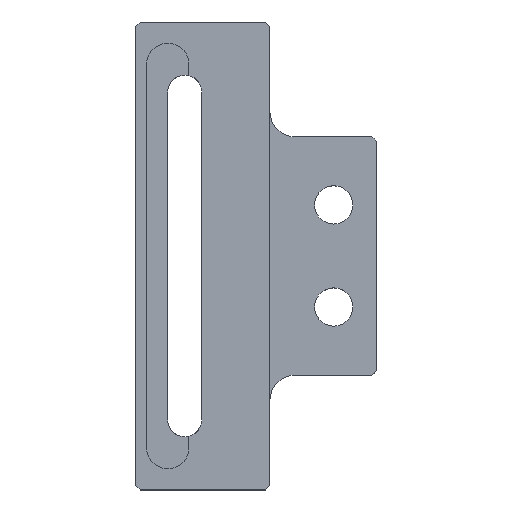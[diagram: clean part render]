
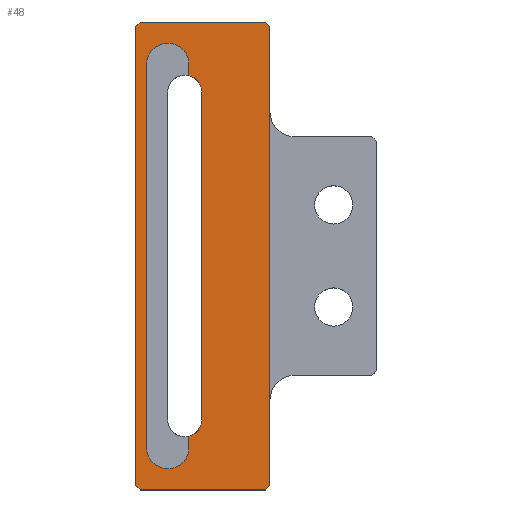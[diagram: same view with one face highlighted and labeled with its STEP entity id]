
A CAD part, top view. The second image highlights one B-rep face of the part: STEP entity #48.
In plain terms, the highlighted planar face has unit normal (0, 0, 1).
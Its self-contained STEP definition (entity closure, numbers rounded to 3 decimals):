
#48=ADVANCED_FACE('',(#363,#365),#367,.T.);
#363=FACE_BOUND('',#364,.T.);
#364=EDGE_LOOP('',(#624,#625,#626,#627,#628,#629,#630,#631,#632,#633));
#365=FACE_BOUND('',#366,.T.);
#366=EDGE_LOOP('',(#634,#635,#636,#637,#638,#639,#640,#641));
#367=PLANE('',#368);
#368=AXIS2_PLACEMENT_3D('',#369,#370,#371);
#369=CARTESIAN_POINT('',(0.,0.,7.5));
#370=DIRECTION('',(0.,0.,1.));
#371=DIRECTION('',(-1.,0.,0.));
#624=ORIENTED_EDGE('',*,*,#810,.F.);
#625=ORIENTED_EDGE('',*,*,#811,.F.);
#626=ORIENTED_EDGE('',*,*,#812,.F.);
#627=ORIENTED_EDGE('',*,*,#813,.F.);
#628=ORIENTED_EDGE('',*,*,#814,.T.);
#629=ORIENTED_EDGE('',*,*,#815,.F.);
#630=ORIENTED_EDGE('',*,*,#816,.F.);
#631=ORIENTED_EDGE('',*,*,#817,.F.);
#632=ORIENTED_EDGE('',*,*,#818,.F.);
#633=ORIENTED_EDGE('',*,*,#819,.F.);
#634=ORIENTED_EDGE('',*,*,#820,.F.);
#635=ORIENTED_EDGE('',*,*,#821,.T.);
#636=ORIENTED_EDGE('',*,*,#822,.T.);
#637=ORIENTED_EDGE('',*,*,#823,.T.);
#638=ORIENTED_EDGE('',*,*,#824,.T.);
#639=ORIENTED_EDGE('',*,*,#825,.T.);
#640=ORIENTED_EDGE('',*,*,#826,.F.);
#641=ORIENTED_EDGE('',*,*,#827,.F.);
#810=EDGE_CURVE('',#903,#904,#905,.F.);
#811=EDGE_CURVE('',#906,#903,#907,.T.);
#812=EDGE_CURVE('',#908,#906,#909,.F.);
#813=EDGE_CURVE('',#910,#908,#911,.T.);
#814=EDGE_CURVE('',#910,#912,#913,.T.);
#815=EDGE_CURVE('',#914,#912,#915,.T.);
#816=EDGE_CURVE('',#916,#914,#917,.F.);
#817=EDGE_CURVE('',#918,#916,#919,.T.);
#818=EDGE_CURVE('',#920,#918,#921,.F.);
#819=EDGE_CURVE('',#904,#920,#922,.T.);
#820=EDGE_CURVE('',#923,#924,#925,.F.);
#821=EDGE_CURVE('',#923,#926,#927,.F.);
#822=EDGE_CURVE('',#926,#928,#929,.F.);
#823=EDGE_CURVE('',#928,#930,#931,.F.);
#824=EDGE_CURVE('',#930,#932,#933,.F.);
#825=EDGE_CURVE('',#932,#934,#935,.F.);
#826=EDGE_CURVE('',#936,#934,#937,.F.);
#827=EDGE_CURVE('',#924,#936,#938,.F.);
#903=VERTEX_POINT('',#1058);
#904=VERTEX_POINT('',#1059);
#905=LINE('',#1060,#1061);
#906=VERTEX_POINT('',#1063);
#907=LINE('',#1064,#1065);
#908=VERTEX_POINT('',#1067);
#909=LINE('',#1068,#1069);
#910=VERTEX_POINT('',#1071);
#911=LINE('',#1072,#1073);
#912=VERTEX_POINT('',#1075);
#913=LINE('',#1076,#1077);
#914=VERTEX_POINT('',#1079);
#915=LINE('',#1080,#1081);
#916=VERTEX_POINT('',#1083);
#917=LINE('',#1084,#1085);
#918=VERTEX_POINT('',#1087);
#919=LINE('',#1088,#1089);
#920=VERTEX_POINT('',#1091);
#921=LINE('',#1092,#1093);
#922=LINE('',#1095,#1096);
#923=VERTEX_POINT('',#1098);
#924=VERTEX_POINT('',#1099);
#925=CIRCLE('',#1100,4.);
#926=VERTEX_POINT('',#1104);
#927=LINE('',#1105,#1106);
#928=VERTEX_POINT('',#1108);
#929=CIRCLE('',#1109,5.);
#930=VERTEX_POINT('',#1113);
#931=LINE('',#1114,#1115);
#932=VERTEX_POINT('',#1117);
#933=CIRCLE('',#1118,5.);
#934=VERTEX_POINT('',#1122);
#935=LINE('',#1123,#1124);
#936=VERTEX_POINT('',#1126);
#937=CIRCLE('',#1127,4.);
#938=LINE('',#1131,#1132);
#1058=CARTESIAN_POINT('',(-65.5,-55.,7.5));
#1059=CARTESIAN_POINT('',(-66.5,-54.,7.5));
#1060=CARTESIAN_POINT('',(-66.5,-54.,7.5));
#1061=VECTOR('',#1062,1.);
#1062=DIRECTION('',(0.707,-0.707,0.));
#1063=CARTESIAN_POINT('',(-36.,-55.,7.5));
#1064=CARTESIAN_POINT('',(-36.,-55.,7.5));
#1065=VECTOR('',#1066,1.);
#1066=DIRECTION('',(-1.,0.,0.));
#1067=CARTESIAN_POINT('',(-35.,-54.,7.5));
#1068=CARTESIAN_POINT('',(-36.,-55.,7.5));
#1069=VECTOR('',#1070,1.);
#1070=DIRECTION('',(0.707,0.707,0.));
#1071=CARTESIAN_POINT('',(-35.,-34.,7.5));
#1072=CARTESIAN_POINT('',(-35.,-34.,7.5));
#1073=VECTOR('',#1074,1.);
#1074=DIRECTION('',(0.,-1.,0.));
#1075=CARTESIAN_POINT('',(-35.,34.,7.5));
#1076=CARTESIAN_POINT('',(-35.,-34.,7.5));
#1077=VECTOR('',#1078,1.);
#1078=DIRECTION('',(0.,1.,0.));
#1079=CARTESIAN_POINT('',(-35.,54.,7.5));
#1080=CARTESIAN_POINT('',(-35.,54.,7.5));
#1081=VECTOR('',#1082,1.);
#1082=DIRECTION('',(0.,-1.,0.));
#1083=CARTESIAN_POINT('',(-36.,55.,7.5));
#1084=CARTESIAN_POINT('',(-35.,54.,7.5));
#1085=VECTOR('',#1086,1.);
#1086=DIRECTION('',(-0.707,0.707,0.));
#1087=CARTESIAN_POINT('',(-65.5,55.,7.5));
#1088=CARTESIAN_POINT('',(-65.5,55.,7.5));
#1089=VECTOR('',#1090,1.);
#1090=DIRECTION('',(1.,0.,0.));
#1091=CARTESIAN_POINT('',(-66.5,54.,7.5));
#1092=CARTESIAN_POINT('',(-65.5,55.,7.5));
#1093=VECTOR('',#1094,1.);
#1094=DIRECTION('',(-0.707,-0.707,0.));
#1095=CARTESIAN_POINT('',(-66.5,-54.,7.5));
#1096=VECTOR('',#1097,1.);
#1097=DIRECTION('',(0.,1.,0.));
#1098=CARTESIAN_POINT('',(-54.,-42.373,7.5));
#1099=CARTESIAN_POINT('',(-51.,-38.5,7.5));
#1100=AXIS2_PLACEMENT_3D('',#1101,#1102,#1103);
#1101=CARTESIAN_POINT('',(-55.,-38.5,7.5));
#1102=DIRECTION('',(0.,0.,-1.));
#1103=DIRECTION('',(1.,0.,0.));
#1104=CARTESIAN_POINT('',(-54.,-45.,7.5));
#1105=CARTESIAN_POINT('',(-54.,-45.,7.5));
#1106=VECTOR('',#1107,1.);
#1107=DIRECTION('',(0.,1.,0.));
#1108=CARTESIAN_POINT('',(-64.,-45.,7.5));
#1109=AXIS2_PLACEMENT_3D('',#1110,#1111,#1112);
#1110=CARTESIAN_POINT('',(-59.,-45.,7.5));
#1111=DIRECTION('',(0.,0.,1.));
#1112=DIRECTION('',(-1.,0.,0.));
#1113=CARTESIAN_POINT('',(-64.,45.,7.5));
#1114=CARTESIAN_POINT('',(-64.,45.,7.5));
#1115=VECTOR('',#1116,1.);
#1116=DIRECTION('',(0.,-1.,0.));
#1117=CARTESIAN_POINT('',(-54.,45.,7.5));
#1118=AXIS2_PLACEMENT_3D('',#1119,#1120,#1121);
#1119=CARTESIAN_POINT('',(-59.,45.,7.5));
#1120=DIRECTION('',(0.,0.,1.));
#1121=DIRECTION('',(1.,0.,0.));
#1122=CARTESIAN_POINT('',(-54.,42.373,7.5));
#1123=CARTESIAN_POINT('',(-54.,42.373,7.5));
#1124=VECTOR('',#1125,1.);
#1125=DIRECTION('',(0.,1.,0.));
#1126=CARTESIAN_POINT('',(-51.,38.5,7.5));
#1127=AXIS2_PLACEMENT_3D('',#1128,#1129,#1130);
#1128=CARTESIAN_POINT('',(-55.,38.5,7.5));
#1129=DIRECTION('',(0.,0.,-1.));
#1130=DIRECTION('',(0.25,0.968,0.));
#1131=CARTESIAN_POINT('',(-51.,38.5,7.5));
#1132=VECTOR('',#1133,1.);
#1133=DIRECTION('',(0.,-1.,0.));
